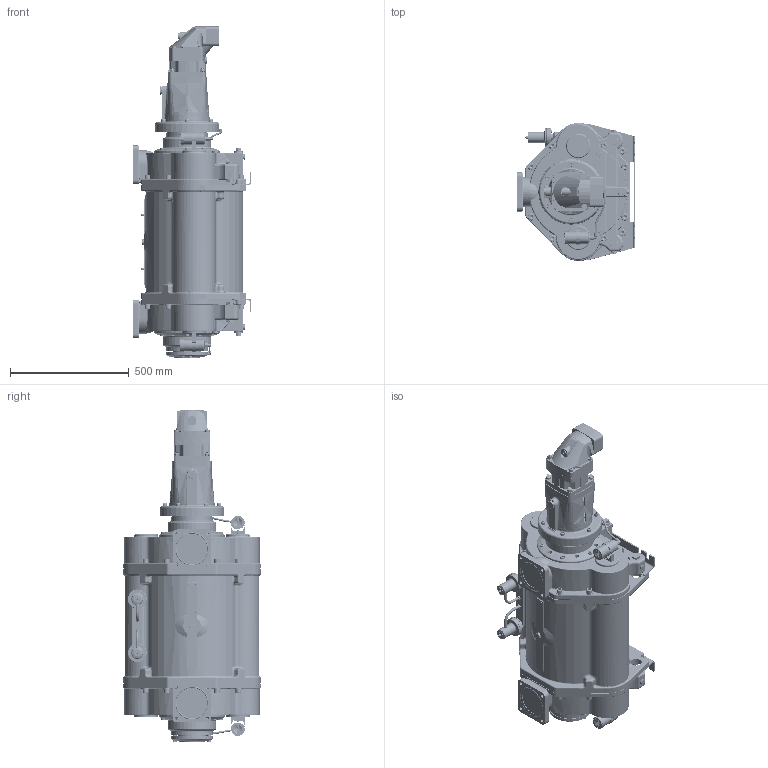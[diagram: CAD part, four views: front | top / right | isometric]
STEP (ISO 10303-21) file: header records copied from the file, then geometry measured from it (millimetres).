
FILE_DESCRIPTION(/* description */ (''),/* implementation_level */ '2;1');
FILE_NAME(/* name */ '1700033C.stp',/* time_stamp */ '2025-09-23T14:09:28+02:00',/* author */ ('JJ'),/* organization */ (''),/* preprocessor_version */ 'ST-DEVELOPER v20',/* originating_system */ 'Autodesk Inventor 2025',/* authorisation */ '');
FILE_SCHEMA (('AUTOMOTIVE_DESIGN { 1 0 10303 214 3 1 1 }'));
Products named in the file (33): 1700033; 1700032 Ready for adaptor; 1700032_Part3; 1700033_Part2; 1615072; 1615074; 1634826; 1634811; 922000266; 910300073; 915000050; 932400151; 932400152; 932400153; 944000088; 944000088_part1; 944000088_part2; 944000088_part3; 910100198; 910100013; 910200013; 910300074; 922200266; 915000232; 915000225; 915000225-part1; 915000225-part2; 944600240; 910100191; 910300221; 944600173; 944600239; 915000217-TM5 adapter
Assembly tree (49 placements, depth 3):
  1700033
    1700032 Ready for adaptor
    1700032_Part3
    1700033_Part2
    1615072
    1615074
    1634826
      1634811
      922000266
    910300073  x6
    915000050
    932400151
    932400152
    932400153
    944000088
      944000088_part1
      944000088_part2
      944000088_part3
    910100198  x4
    910100013  x4
    910200013  x4
    910300074  x4
    922200266
    915000232
    915000225
      915000225-part1
      915000225-part2
    944600240
    910100191
    910300221
    944600173
    944600239
    915000217-TM5 adapter
Bounding box: 499.09 x 579 x 1396.1 mm (x, y, z)
Volume: 141625542.4 mm3; surface area: 4206412.9 mm2
Topology: 49 solids, 50 shells, 6487 faces, 16246 edges, 10155 vertices
Faces by surface type: plane 2500, cylinder 1660, bspline 1125, torus 581, cone 551, sphere 70
Full cylindrical faces by diameter (mm): 1.5 x16, 3.2 x4, 3.3 x4, 3.5 x4, 4 x3, 4.134 x4, 4.92 x8, 5 x2, 5.3 x2, 6 x12, 6.1 x2, 6.4 x2, 6.647 x1, 8 x23, 8.5 x4, 8.57 x2, 8.92 x1, 9.2 x2, 9.7 x2, 9.8 x4, 10 x15, 10.106 x34, 10.11 x1, 11 x4, 11.445 x1, 12 x131, 13 x22, 13.5 x8, 13.835 x9, 14 x4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
Entity records: 236722 total; most frequent: CARTESIAN_POINT 89772, ORIENTED_EDGE 30694, DIRECTION 27538, EDGE_CURVE 15347, AXIS2_PLACEMENT_3D 10312, VERTEX_POINT 9640, EDGE_LOOP 6921, LINE 6914
